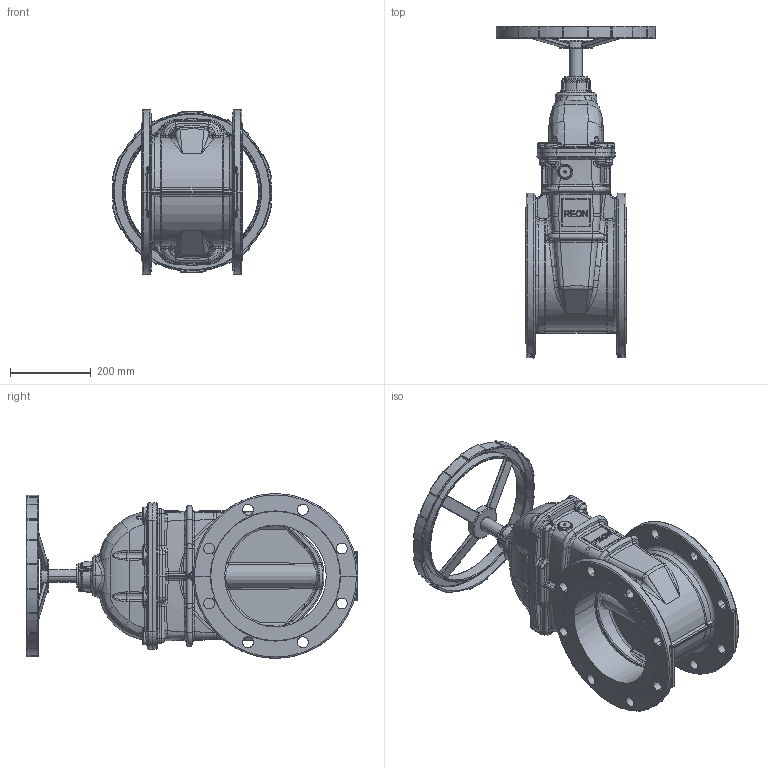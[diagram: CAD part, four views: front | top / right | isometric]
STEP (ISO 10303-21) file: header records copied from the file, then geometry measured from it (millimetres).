
FILE_DESCRIPTION (( 'STEP AP203' ), '1' );
FILE_NAME ('DN250掅概.STEP', '2026-09-23T03:53:20', ( 'Windows 蚚誧' ), ( 'Microsoft' ), 'SwSTEP 2.0', 'SolidWorks 2022', '' );
FILE_SCHEMA (( 'CONFIG_CONTROL_DESIGN' ));
Length unit declared in the file: millimetre
Products named in the file (8): DN250闸阀; DN250阀体; hexagon socket head cap screws gb_GB_FASTENER_SCREWS_HSHCS M14X25-N; D400手轮; DN250阀板; DN250阀盖; DN250上铜母; DN250阀杆
Assembly tree (15 placements, depth 2):
  DN250闸阀
    DN250阀体
    DN250阀盖
    hexagon socket head cap screws gb_GB_FASTENER_SCREWS_HSHCS M14X25-N  x8
    DN250阀板  x2
    DN250上铜母
    D400手轮
    DN250阀杆
Bounding box: 395.21 x 820.87 x 407.02 mm (x, y, z)
Volume: 11420914.2 mm3; surface area: 2120921.9 mm2
Topology: 15 solids, 15 shells, 2683 faces, 6325 edges, 3605 vertices
Faces by surface type: bspline 1426, cylinder 578, plane 375, torus 151, cone 88, sphere 65
Entity records: 140695 total; most frequent: CARTESIAN_POINT 100769, ORIENTED_EDGE 10700, EDGE_CURVE 5350, DIRECTION 4519, VERTEX_POINT 3087, B_SPLINE_CURVE_WITH_KNOTS 2771, EDGE_LOOP 2375, ADVANCED_FACE 2293
